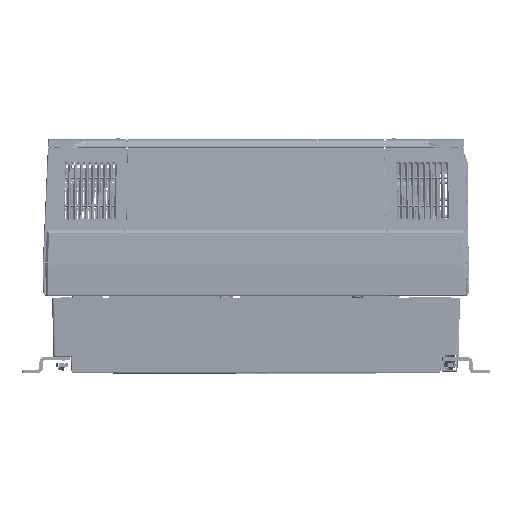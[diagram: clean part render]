
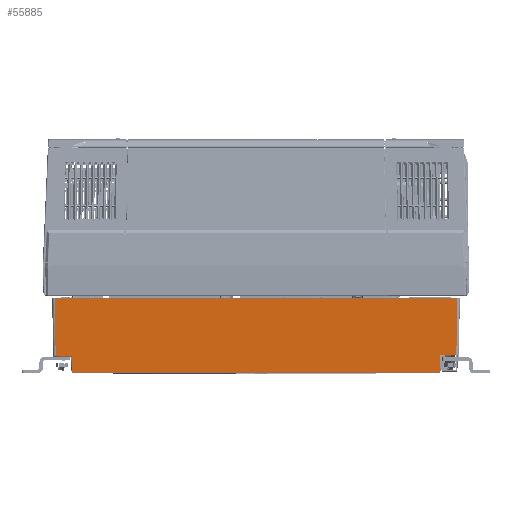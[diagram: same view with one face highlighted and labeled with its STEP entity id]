
A CAD part, left-side view. The second image highlights one B-rep face of the part: STEP entity #55885.
In plain terms, the highlighted planar face has unit normal (-0.999, 0, -0.035).
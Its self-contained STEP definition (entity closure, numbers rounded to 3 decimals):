
#2956=DIRECTION('',(0.,1.,0.));
#2957=VECTOR('',#2956,19.212);
#2958=CARTESIAN_POINT('',(-122.426,219.199,
-106.435));
#2959=LINE('',#2958,#2957);
#2960=DIRECTION('',(0.035,-0.017,-0.999));
#2961=VECTOR('',#2960,69.558);
#2962=CARTESIAN_POINT('',(-124.853,239.625,
-36.93));
#2963=LINE('',#2962,#2961);
#2964=DIRECTION('',(0.,-1.,0.));
#2965=VECTOR('',#2964,479.266);
#2966=CARTESIAN_POINT('',(-124.853,239.625,
-36.93));
#2967=LINE('',#2966,#2965);
#2968=DIRECTION('',(-0.035,-0.017,0.999));
#2969=VECTOR('',#2968,68.557);
#2970=CARTESIAN_POINT('',(-122.461,-238.447,
-105.435));
#2971=LINE('',#2970,#2969);
#2972=DIRECTION('',(0.,1.,0.));
#2973=VECTOR('',#2972,19.213);
#2974=CARTESIAN_POINT('',(-122.461,-238.447,
-105.435));
#2975=LINE('',#2974,#2973);
#2976=DIRECTION('',(0.,-1.,0.));
#2977=VECTOR('',#2976,437.065);
#2978=CARTESIAN_POINT('',(-121.759,218.532,
-125.534));
#2979=LINE('',#2978,#2977);
#29049=CARTESIAN_POINT('',(-122.426,238.411,
-106.435));
#29065=CARTESIAN_POINT('',(-124.853,239.625,
-36.93));
#29076=CARTESIAN_POINT('',(-124.853,-239.642,
-36.93));
#32394=CARTESIAN_POINT('',(-122.426,219.199,
-106.435));
#32396=DIRECTION('',(0.035,-0.035,-0.999));
#32397=VECTOR('',#32396,19.122);
#32398=CARTESIAN_POINT('',(-122.426,219.199,
-106.435));
#32399=LINE('',#32398,#32397);
#32860=DIRECTION('',(-0.035,-0.035,0.999));
#32861=VECTOR('',#32860,20.123);
#32862=CARTESIAN_POINT('',(-121.759,-218.532,
-125.534));
#32863=LINE('',#32862,#32861);
#44145=VERTEX_POINT('',#29065);
#44164=VERTEX_POINT('',#29076);
#44603=VERTEX_POINT('',#29049);
#44604=CARTESIAN_POINT('',(-122.461,-238.447,
-105.435));
#44605=CARTESIAN_POINT('',(-122.461,-219.234,
-105.435));
#44606=VERTEX_POINT('',#44604);
#44607=VERTEX_POINT('',#44605);
#46017=CARTESIAN_POINT('',(-121.759,218.532,
-125.534));
#46018=VERTEX_POINT('',#46017);
#46019=CARTESIAN_POINT('',(-121.759,-218.532,
-125.534));
#46020=VERTEX_POINT('',#46019);
#53455=VERTEX_POINT('',#32394);
#55862=CARTESIAN_POINT('',(-121.778,-249.372,-125.));
#55863=DIRECTION('',(-0.999,0.,-0.035));
#55864=DIRECTION('',(0.,-1.,0.));
#55865=AXIS2_PLACEMENT_3D('',#55862,#55863,#55864);
#55866=PLANE('',#55865);
#55868=ORIENTED_EDGE('',*,*,#55867,.T.);
#55870=ORIENTED_EDGE('',*,*,#55869,.F.);
#55872=ORIENTED_EDGE('',*,*,#55871,.T.);
#55874=ORIENTED_EDGE('',*,*,#55873,.F.);
#55876=ORIENTED_EDGE('',*,*,#55875,.T.);
#55878=ORIENTED_EDGE('',*,*,#55877,.F.);
#55880=ORIENTED_EDGE('',*,*,#55879,.F.);
#55882=ORIENTED_EDGE('',*,*,#55881,.F.);
#55883=EDGE_LOOP('',(#55868,#55870,#55872,#55874,#55876,#55878,#55880,#55882));
#55884=FACE_OUTER_BOUND('',#55883,.F.);
#55885=ADVANCED_FACE('',(#55884),#55866,.T.);
#55867=EDGE_CURVE('',#53455,#44603,#2959,.T.);
#55869=EDGE_CURVE('',#44145,#44603,#2963,.T.);
#55871=EDGE_CURVE('',#44145,#44164,#2967,.T.);
#55873=EDGE_CURVE('',#44606,#44164,#2971,.T.);
#55875=EDGE_CURVE('',#44606,#44607,#2975,.T.);
#55877=EDGE_CURVE('',#46020,#44607,#32863,.T.);
#55879=EDGE_CURVE('',#46018,#46020,#2979,.T.);
#55881=EDGE_CURVE('',#53455,#46018,#32399,.T.);
